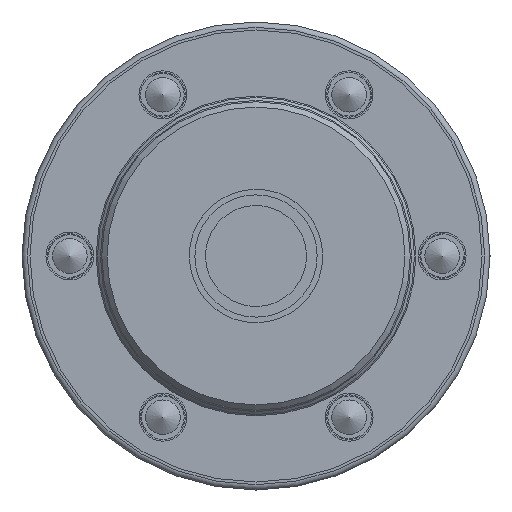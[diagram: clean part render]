
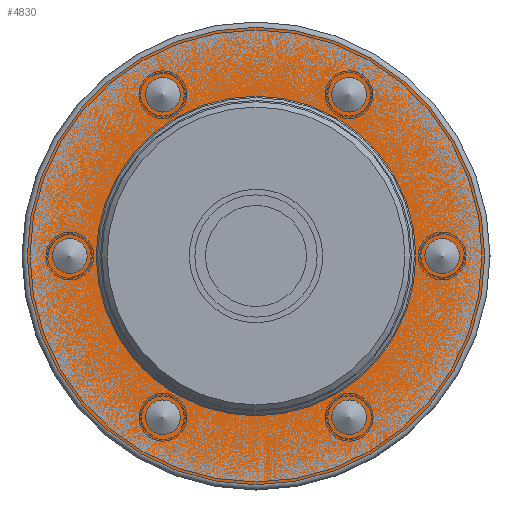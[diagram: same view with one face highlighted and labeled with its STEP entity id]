
A CAD part, front view. The second image highlights one B-rep face of the part: STEP entity #4830.
In plain terms, the highlighted planar face has unit normal (0, 1, 0).
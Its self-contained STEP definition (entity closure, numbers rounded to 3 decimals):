
#380 = DIRECTION ( 'NONE',  ( 0., 0., 1. ) ) ;
#489 = ORIENTED_EDGE ( 'NONE', *, *, #1328, .T. ) ;
#726 = DIRECTION ( 'NONE',  ( 0., 1., 0. ) ) ;
#837 = CIRCLE ( 'NONE', #2228, 43. ) ;
#1141 = ORIENTED_EDGE ( 'NONE', *, *, #5021, .T. ) ;
#1328 = EDGE_CURVE ( 'NONE', #2486, #2486, #837, .T. ) ;
#1966 = AXIS2_PLACEMENT_3D ( 'NONE', #2424, #726, #380 ) ;
#2017 = PLANE ( 'NONE',  #1966 ) ;
#2228 = AXIS2_PLACEMENT_3D ( 'NONE', #3398, #4703, #3484 ) ;
#2424 = CARTESIAN_POINT ( 'NONE',  ( 44., -20., 0. ) ) ;
#2479 = FACE_BOUND ( 'NONE', #5083, .T. ) ;
#2486 = VERTEX_POINT ( 'NONE', #4133 ) ;
#2757 = AXIS2_PLACEMENT_3D ( 'NONE', #5192, #2956, #4376 ) ;
#2956 = DIRECTION ( 'NONE',  ( 0., -1., 0. ) ) ;
#3028 = CIRCLE ( 'NONE', #2757, 30.05 ) ;
#3261 = FACE_OUTER_BOUND ( 'NONE', #4113, .T. ) ;
#3398 = CARTESIAN_POINT ( 'NONE',  ( 0., -20., 0. ) ) ;
#3484 = DIRECTION ( 'NONE',  ( 0., 0., 1. ) ) ;
#4113 = EDGE_LOOP ( 'NONE', ( #489 ) ) ;
#4133 = CARTESIAN_POINT ( 'NONE',  ( 0., -20., 43. ) ) ;
#4376 = DIRECTION ( 'NONE',  ( 0., 0., -1. ) ) ;
#4703 = DIRECTION ( 'NONE',  ( 0., 1., 0. ) ) ;
#4830 = ADVANCED_FACE ( 'NONE', ( #3261, #2479 ), #2017, .T. ) ;
#4976 = CARTESIAN_POINT ( 'NONE',  ( 0., -20., -30.05 ) ) ;
#5021 = EDGE_CURVE ( 'NONE', #5433, #5433, #3028, .T. ) ;
#5083 = EDGE_LOOP ( 'NONE', ( #1141 ) ) ;
#5192 = CARTESIAN_POINT ( 'NONE',  ( 0., -20., 0. ) ) ;
#5433 = VERTEX_POINT ( 'NONE', #4976 ) ;
